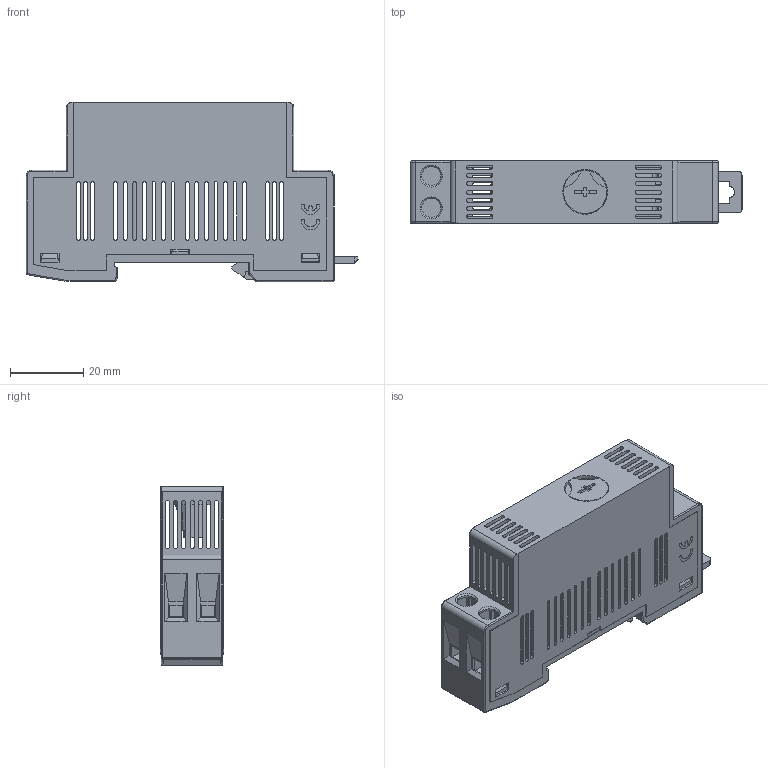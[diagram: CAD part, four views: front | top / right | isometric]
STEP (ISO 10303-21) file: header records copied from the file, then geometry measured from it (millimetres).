
FILE_DESCRIPTION(/* description */ (''),/* implementation_level */ '2;1');
FILE_NAME(/* name */ '4.stp',/* time_stamp */ '2022-09-27T17:40:04+08:00',/* author */ (''),/* organization */ (''),/* preprocessor_version */ 'ST-DEVELOPER v16.7',/* originating_system */ 'SIEMENS PLM Software NX 12.0',/* authorisation */ '');
FILE_SCHEMA (('AUTOMOTIVE_DESIGN { 1 0 10303 214 3 1 1 1 }'));
Length unit declared in the file: millimetre
Products named in the file (1): Admi7AD4EA6Aush9
Bounding box: 90.5 x 17.3 x 48.83 mm (x, y, z)
Volume: 13637.8 mm3; surface area: 30769.5 mm2
Topology: 6 solids, 6 shells, 1042 faces, 2977 edges, 1949 vertices
Faces by surface type: plane 687, cylinder 332, torus 8, sphere 8, cone 7
Full cylindrical faces by diameter (mm): 1.3 x2, 1.9 x1, 4.1 x1, 5.2 x2, 7.7 x1, 8.2 x1, 9.9 x1, 10 x1, 11.8 x1, 12.2 x1, 14 x1
Entity records: 34092 total; most frequent: CARTESIAN_POINT 6038, ORIENTED_EDGE 5882, DIRECTION 5711, EDGE_CURVE 2941, LINE 2213, VECTOR 2213, VERTEX_POINT 1937, AXIS2_PLACEMENT_3D 1749
